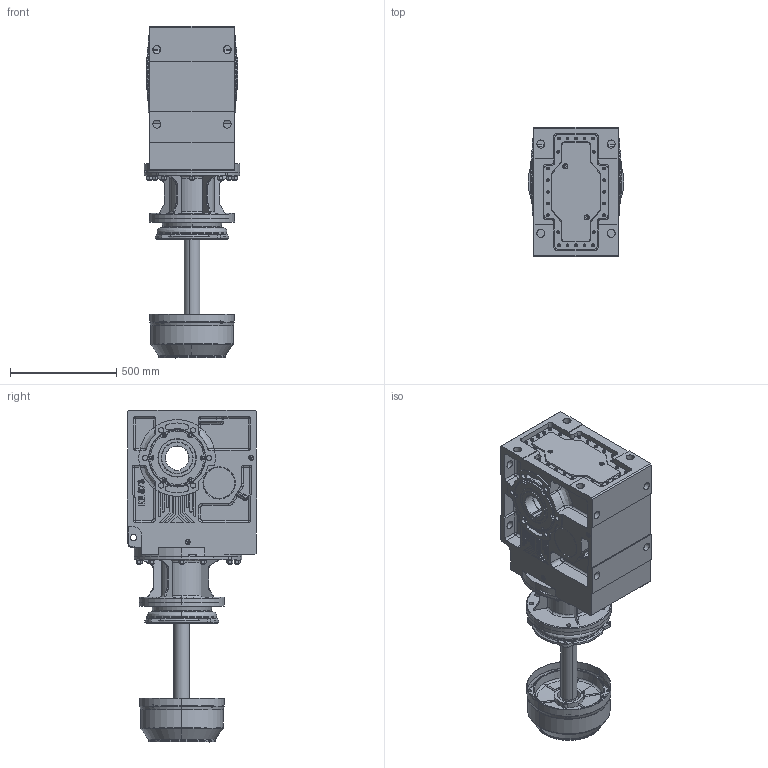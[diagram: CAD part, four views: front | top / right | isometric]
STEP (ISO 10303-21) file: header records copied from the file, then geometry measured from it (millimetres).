
FILE_DESCRIPTION (( 'STEP AP203' ), '1' );
FILE_NAME ('KV_873_0_M3-200L.STEP', '2019-07-18T08:47:36', ( '' ), ( '' ), 'SwSTEP 2.0', 'SolidWorks 2012', '' );
FILE_SCHEMA (( 'CONFIG_CONTROL_DESIGN' ));
Products named in the file (11): KV_873_0_M3-200L; 200-4B5; Y2-200-4.6.8Ã¦Íß¦ð-Ô©Ã_-¼+¤; Y2-200-2.4.6.8ｦｾﾂ-ｩﾃ_-ｼ+､; ﾍﾟYE3-200L-4.6.8C+ﾎA+ｳ_-ｼ+､; KN_87_3_0_A-B20_B5; MN2-200ﾀiﾍ_-ｼ+､; Y2-200-4.6.8-ｦﾈﾁﾂ-ｩﾃ_-ｼ+､; ML23A_Varsayìlan; 83A200B5_Varsayìlan; K873_Varsayìlan
Assembly tree (10 placements, depth 3):
  KV_873_0_M3-200L
    KN_87_3_0_A-B20_B5
      K873_Varsayìlan
      83A200B5_Varsayìlan
      ML23A_Varsayìlan
    200-4B5
      Y2-200-4.6.8-ｦﾈﾁﾂ-ｩﾃ_-ｼ+､
      MN2-200ﾀiﾍ_-ｼ+､
      Y2-200-4.6.8Ã¦Íß¦ð-Ô©Ã_-¼+¤
      ﾍﾟYE3-200L-4.6.8C+ﾎA+ｳ_-ｼ+､
      Y2-200-2.4.6.8ｦｾﾂ-ｩﾃ_-ｼ+､
Bounding box: 450 x 610 x 1560.7 mm (x, y, z)
Volume: 21396857.2 mm3; surface area: 5932434 mm2
Topology: 7 solids, 54 shells, 2803 faces, 7052 edges, 4423 vertices
Faces by surface type: plane 1228, cylinder 840, cone 368, bspline 363, torus 4
Entity records: 104652 total; most frequent: CARTESIAN_POINT 37583, ORIENTED_EDGE 13888, DIRECTION 13701, EDGE_CURVE 6964, AXIS2_PLACEMENT_3D 5068, VERTEX_POINT 4416, LINE 3565, VECTOR 3565
